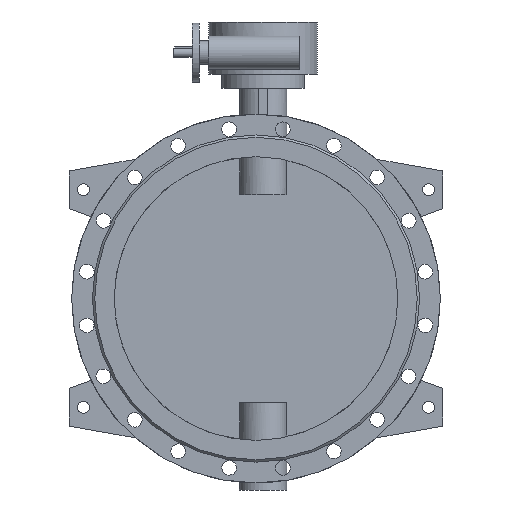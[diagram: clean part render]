
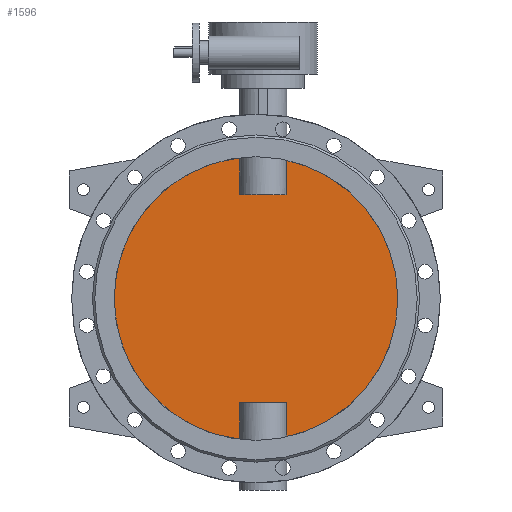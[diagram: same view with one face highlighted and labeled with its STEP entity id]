
A CAD part, front view. The second image highlights one B-rep face of the part: STEP entity #1596.
In plain terms, the highlighted planar face has unit normal (0, -1, 0).
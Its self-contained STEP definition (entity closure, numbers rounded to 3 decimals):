
#1596=ADVANCED_FACE('',(#3324),#3326,.F.);
#3324=FACE_BOUND('',#3325,.T.);
#3325=EDGE_LOOP('',(#4186,#4187,#4188,#4189,#4190,#4191,#4192,#4193));
#3326=PLANE('',#3327);
#3327=AXIS2_PLACEMENT_3D('',#3328,#3329,#3330);
#3328=CARTESIAN_POINT('',(0.,-5.,0.));
#3329=DIRECTION('',(0.,1.,0.));
#3330=DIRECTION('',(1.,0.,0.));
#4186=ORIENTED_EDGE('',*,*,#4617,.T.);
#4187=ORIENTED_EDGE('',*,*,#4623,.T.);
#4188=ORIENTED_EDGE('',*,*,#4624,.T.);
#4189=ORIENTED_EDGE('',*,*,#4625,.T.);
#4190=ORIENTED_EDGE('',*,*,#4619,.T.);
#4191=ORIENTED_EDGE('',*,*,#4626,.T.);
#4192=ORIENTED_EDGE('',*,*,#4627,.T.);
#4193=ORIENTED_EDGE('',*,*,#4628,.T.);
#4617=EDGE_CURVE('',#5321,#5322,#5323,.F.);
#4619=EDGE_CURVE('',#5326,#5324,#5327,.F.);
#4623=EDGE_CURVE('',#5322,#5333,#5334,.T.);
#4624=EDGE_CURVE('',#5333,#5335,#5336,.F.);
#4625=EDGE_CURVE('',#5335,#5326,#5337,.F.);
#4626=EDGE_CURVE('',#5324,#5338,#5339,.F.);
#4627=EDGE_CURVE('',#5338,#5340,#5341,.F.);
#4628=EDGE_CURVE('',#5340,#5321,#5342,.T.);
#5321=VERTEX_POINT('',#7810);
#5322=VERTEX_POINT('',#7811);
#5323=CIRCLE('',#7812,300.);
#5324=VERTEX_POINT('',#7816);
#5326=VERTEX_POINT('',#7903);
#5327=CIRCLE('',#7904,300.);
#5333=VERTEX_POINT('',#8026);
#5334=LINE('',#8027,#8028);
#5335=VERTEX_POINT('',#8030);
#5336=LINE('',#8031,#8032);
#5337=LINE('',#8034,#8035);
#5338=VERTEX_POINT('',#8037);
#5339=LINE('',#8038,#8039);
#5340=VERTEX_POINT('',#8041);
#5341=LINE('',#8042,#8043);
#5342=LINE('',#8045,#8046);
#7810=CARTESIAN_POINT('',(64.749,-5.,-292.929));
#7811=CARTESIAN_POINT('',(64.749,-5.,292.929));
#7812=AXIS2_PLACEMENT_3D('',#7813,#7814,#7815);
#7813=CARTESIAN_POINT('',(0.,-5.,0.));
#7814=DIRECTION('',(0.,1.,0.));
#7815=DIRECTION('',(0.216,0.,0.976));
#7816=CARTESIAN_POINT('',(-34.749,-5.,-297.981));
#7903=CARTESIAN_POINT('',(-34.749,-5.,297.981));
#7904=AXIS2_PLACEMENT_3D('',#7905,#7906,#7907);
#7905=CARTESIAN_POINT('',(0.,-5.,0.));
#7906=DIRECTION('',(0.,1.,0.));
#7907=DIRECTION('',(-0.116,0.,-0.993));
#8026=CARTESIAN_POINT('',(64.749,-5.,220.));
#8027=CARTESIAN_POINT('',(64.749,-5.,292.929));
#8028=VECTOR('',#8029,1.);
#8029=DIRECTION('',(0.,0.,-1.));
#8030=CARTESIAN_POINT('',(-34.749,-5.,220.));
#8031=CARTESIAN_POINT('',(-34.749,-5.,220.));
#8032=VECTOR('',#8033,1.);
#8033=DIRECTION('',(1.,0.,0.));
#8034=CARTESIAN_POINT('',(-34.749,-5.,297.981));
#8035=VECTOR('',#8036,1.);
#8036=DIRECTION('',(0.,0.,-1.));
#8037=CARTESIAN_POINT('',(-34.749,-5.,-220.));
#8038=CARTESIAN_POINT('',(-34.749,-5.,-220.));
#8039=VECTOR('',#8040,1.);
#8040=DIRECTION('',(0.,0.,-1.));
#8041=CARTESIAN_POINT('',(64.749,-5.,-220.));
#8042=CARTESIAN_POINT('',(64.749,-5.,-220.));
#8043=VECTOR('',#8044,1.);
#8044=DIRECTION('',(-1.,0.,0.));
#8045=CARTESIAN_POINT('',(64.749,-5.,-220.));
#8046=VECTOR('',#8047,1.);
#8047=DIRECTION('',(0.,0.,-1.));
